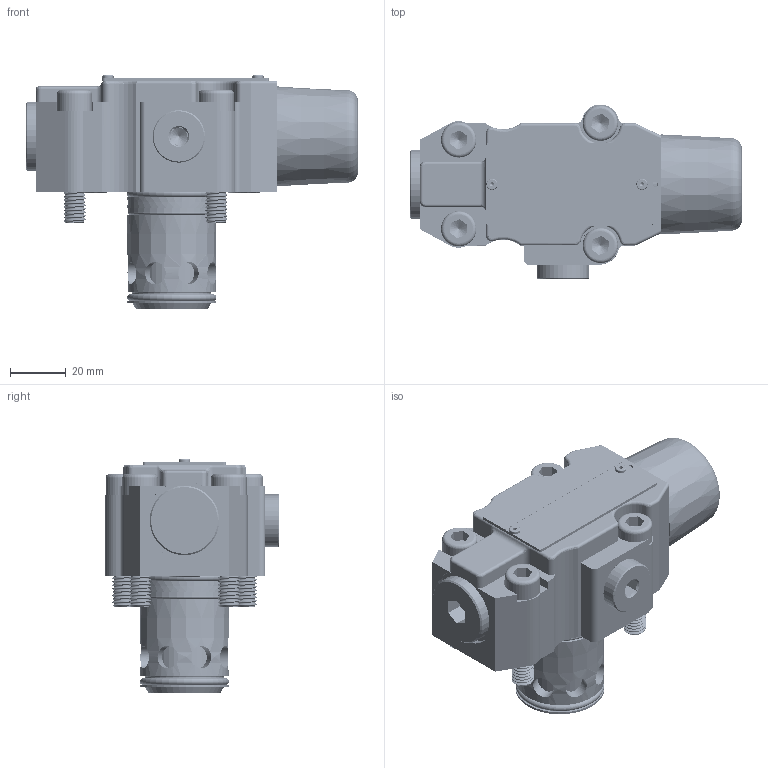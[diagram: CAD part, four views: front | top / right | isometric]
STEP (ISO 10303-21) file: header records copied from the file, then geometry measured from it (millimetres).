
FILE_DESCRIPTION(/* description */ (''),/* implementation_level */ '2;1');
FILE_NAME(/* name */ 'DBC30-5X.stp',/* time_stamp */ '2023-11-28T15:37:24+08:00',/* author */ (''),/* organization */ (''),/* preprocessor_version */ 'ST-DEVELOPER v16.7',/* originating_system */ 'SIEMENS PLM Software NX 12.0',/* authorisation */ '');
FILE_SCHEMA (('AUTOMOTIVE_DESIGN { 1 0 10303 214 3 1 1 1 }'));
Products named in the file (1): DBC30-5X
Bounding box: 119.5 x 62.95 x 84 mm (x, y, z)
Volume: 57414.7 mm3; surface area: 87670.3 mm2
Topology: 37 solids, 39 shells, 751 faces, 1781 edges, 1111 vertices
Faces by surface type: plane 270, cylinder 255, cone 96, bspline 74, torus 52, sphere 4
Full cylindrical faces by diameter (mm): 1 x3, 1.5 x3, 1.8 x4, 1.9 x2, 2 x2, 3 x5, 3.3 x1, 3.4 x12, 4 x3, 4.2 x9, 4.5 x1, 5 x2, 5.4 x1, 5.5 x1, 6 x2, 8 x9, 8.3 x3, 8.4 x4, 9 x2, 9.5 x1, 10 x2, 11 x4, 11.093 x1, 11.1 x3, 11.5 x8, 12 x4, 12.1 x1, 12.2 x2, 12.73 x4, 13 x3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
Entity records: 96635 total; most frequent: CARTESIAN_POINT 81761, DIRECTION 2732, ORIENTED_EDGE 2592, EDGE_CURVE 1296, AXIS2_PLACEMENT_3D 1171, EDGE_LOOP 1048, VERTEX_POINT 946, ADVANCED_FACE 710
